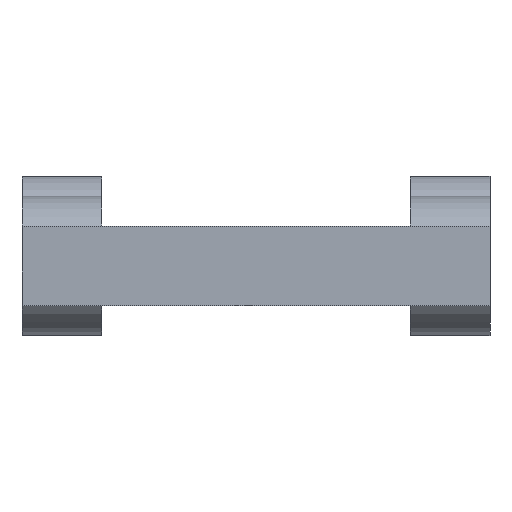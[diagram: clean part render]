
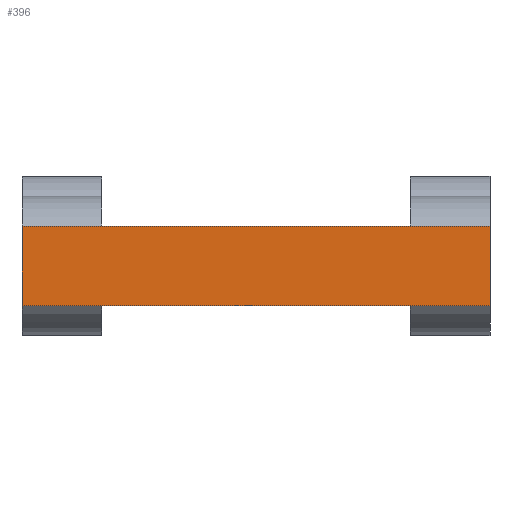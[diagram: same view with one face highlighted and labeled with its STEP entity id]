
A CAD part, front view. The second image highlights one B-rep face of the part: STEP entity #396.
In plain terms, the highlighted planar face has unit normal (0, -1, 0).
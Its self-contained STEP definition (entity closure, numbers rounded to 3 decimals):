
#21 = EDGE_CURVE('',#22,#24,#26,.T.);
#22 = VERTEX_POINT('',#23);
#23 = CARTESIAN_POINT('',(-21.14,-24.903,-23.8));
#24 = VERTEX_POINT('',#25);
#25 = CARTESIAN_POINT('',(-21.14,-24.903,-21.8));
#26 = SURFACE_CURVE('',#27,(#31,#43),.PCURVE_S1.);
#27 = LINE('',#28,#29);
#28 = CARTESIAN_POINT('',(-21.14,-24.903,-23.8));
#29 = VECTOR('',#30,1.);
#30 = DIRECTION('',(0.,0.,1.));
#31 = PCURVE('',#32,#37);
#32 = PLANE('',#33);
#33 = AXIS2_PLACEMENT_3D('',#34,#35,#36);
#34 = CARTESIAN_POINT('',(-21.14,-24.903,-23.8));
#35 = DIRECTION('',(1.,0.,-0.));
#36 = DIRECTION('',(0.,0.,1.));
#37 = DEFINITIONAL_REPRESENTATION('',(#38),#42);
#38 = LINE('',#39,#40);
#39 = CARTESIAN_POINT('',(0.,0.));
#40 = VECTOR('',#41,1.);
#41 = DIRECTION('',(1.,0.));
#42 = ( GEOMETRIC_REPRESENTATION_CONTEXT(2) 
PARAMETRIC_REPRESENTATION_CONTEXT() REPRESENTATION_CONTEXT('2D SPACE',''
  ) );
#43 = PCURVE('',#44,#49);
#44 = PLANE('',#45);
#45 = AXIS2_PLACEMENT_3D('',#46,#47,#48);
#46 = CARTESIAN_POINT('',(-21.14,-24.903,-23.8));
#47 = DIRECTION('',(-0.,1.,0.));
#48 = DIRECTION('',(0.,0.,1.));
#49 = DEFINITIONAL_REPRESENTATION('',(#50),#54);
#50 = LINE('',#51,#52);
#51 = CARTESIAN_POINT('',(0.,0.));
#52 = VECTOR('',#53,1.);
#53 = DIRECTION('',(1.,0.));
#54 = ( GEOMETRIC_REPRESENTATION_CONTEXT(2) 
PARAMETRIC_REPRESENTATION_CONTEXT() REPRESENTATION_CONTEXT('2D SPACE',''
  ) );
#72 = PLANE('',#73);
#73 = AXIS2_PLACEMENT_3D('',#74,#75,#76);
#74 = CARTESIAN_POINT('',(-21.14,-24.903,-23.8));
#75 = DIRECTION('',(0.,0.,1.));
#76 = DIRECTION('',(1.,0.,-0.));
#287 = VERTEX_POINT('',#288);
#288 = CARTESIAN_POINT('',(-21.14,-24.903,-19.8));
#302 = PLANE('',#303);
#303 = AXIS2_PLACEMENT_3D('',#304,#305,#306);
#304 = CARTESIAN_POINT('',(-21.14,-24.903,-19.8));
#305 = DIRECTION('',(0.,0.,1.));
#306 = DIRECTION('',(1.,0.,-0.));
#314 = EDGE_CURVE('',#24,#287,#315,.T.);
#315 = SURFACE_CURVE('',#316,(#320,#327),.PCURVE_S1.);
#316 = LINE('',#317,#318);
#317 = CARTESIAN_POINT('',(-21.14,-24.903,-23.8));
#318 = VECTOR('',#319,1.);
#319 = DIRECTION('',(0.,0.,1.));
#320 = PCURVE('',#32,#321);
#321 = DEFINITIONAL_REPRESENTATION('',(#322),#326);
#322 = LINE('',#323,#324);
#323 = CARTESIAN_POINT('',(0.,0.));
#324 = VECTOR('',#325,1.);
#325 = DIRECTION('',(1.,0.));
#326 = ( GEOMETRIC_REPRESENTATION_CONTEXT(2) 
PARAMETRIC_REPRESENTATION_CONTEXT() REPRESENTATION_CONTEXT('2D SPACE',''
  ) );
#327 = PCURVE('',#44,#328);
#328 = DEFINITIONAL_REPRESENTATION('',(#329),#333);
#329 = LINE('',#330,#331);
#330 = CARTESIAN_POINT('',(0.,0.));
#331 = VECTOR('',#332,1.);
#332 = DIRECTION('',(1.,0.));
#333 = ( GEOMETRIC_REPRESENTATION_CONTEXT(2) 
PARAMETRIC_REPRESENTATION_CONTEXT() REPRESENTATION_CONTEXT('2D SPACE',''
  ) );
#396 = ADVANCED_FACE('',(#397),#44,.F.);
#397 = FACE_BOUND('',#398,.F.);
#398 = EDGE_LOOP('',(#399,#422,#423,#424,#447,#475));
#399 = ORIENTED_EDGE('',*,*,#400,.F.);
#400 = EDGE_CURVE('',#22,#401,#403,.T.);
#401 = VERTEX_POINT('',#402);
#402 = CARTESIAN_POINT('',(2.36,-24.903,-23.8));
#403 = SURFACE_CURVE('',#404,(#408,#415),.PCURVE_S1.);
#404 = LINE('',#405,#406);
#405 = CARTESIAN_POINT('',(-21.14,-24.903,-23.8));
#406 = VECTOR('',#407,1.);
#407 = DIRECTION('',(1.,0.,-0.));
#408 = PCURVE('',#44,#409);
#409 = DEFINITIONAL_REPRESENTATION('',(#410),#414);
#410 = LINE('',#411,#412);
#411 = CARTESIAN_POINT('',(0.,0.));
#412 = VECTOR('',#413,1.);
#413 = DIRECTION('',(0.,1.));
#414 = ( GEOMETRIC_REPRESENTATION_CONTEXT(2) 
PARAMETRIC_REPRESENTATION_CONTEXT() REPRESENTATION_CONTEXT('2D SPACE',''
  ) );
#415 = PCURVE('',#72,#416);
#416 = DEFINITIONAL_REPRESENTATION('',(#417),#421);
#417 = LINE('',#418,#419);
#418 = CARTESIAN_POINT('',(0.,0.));
#419 = VECTOR('',#420,1.);
#420 = DIRECTION('',(1.,0.));
#421 = ( GEOMETRIC_REPRESENTATION_CONTEXT(2) 
PARAMETRIC_REPRESENTATION_CONTEXT() REPRESENTATION_CONTEXT('2D SPACE',''
  ) );
#422 = ORIENTED_EDGE('',*,*,#21,.T.);
#423 = ORIENTED_EDGE('',*,*,#314,.T.);
#424 = ORIENTED_EDGE('',*,*,#425,.T.);
#425 = EDGE_CURVE('',#287,#426,#428,.T.);
#426 = VERTEX_POINT('',#427);
#427 = CARTESIAN_POINT('',(2.36,-24.903,-19.8));
#428 = SURFACE_CURVE('',#429,(#433,#440),.PCURVE_S1.);
#429 = LINE('',#430,#431);
#430 = CARTESIAN_POINT('',(-21.14,-24.903,-19.8));
#431 = VECTOR('',#432,1.);
#432 = DIRECTION('',(1.,0.,-0.));
#433 = PCURVE('',#44,#434);
#434 = DEFINITIONAL_REPRESENTATION('',(#435),#439);
#435 = LINE('',#436,#437);
#436 = CARTESIAN_POINT('',(4.,0.));
#437 = VECTOR('',#438,1.);
#438 = DIRECTION('',(0.,1.));
#439 = ( GEOMETRIC_REPRESENTATION_CONTEXT(2) 
PARAMETRIC_REPRESENTATION_CONTEXT() REPRESENTATION_CONTEXT('2D SPACE',''
  ) );
#440 = PCURVE('',#302,#441);
#441 = DEFINITIONAL_REPRESENTATION('',(#442),#446);
#442 = LINE('',#443,#444);
#443 = CARTESIAN_POINT('',(0.,0.));
#444 = VECTOR('',#445,1.);
#445 = DIRECTION('',(1.,0.));
#446 = ( GEOMETRIC_REPRESENTATION_CONTEXT(2) 
PARAMETRIC_REPRESENTATION_CONTEXT() REPRESENTATION_CONTEXT('2D SPACE',''
  ) );
#447 = ORIENTED_EDGE('',*,*,#448,.F.);
#448 = EDGE_CURVE('',#449,#426,#451,.T.);
#449 = VERTEX_POINT('',#450);
#450 = CARTESIAN_POINT('',(2.36,-24.903,-21.8));
#451 = SURFACE_CURVE('',#452,(#456,#463),.PCURVE_S1.);
#452 = LINE('',#453,#454);
#453 = CARTESIAN_POINT('',(2.36,-24.903,-23.8));
#454 = VECTOR('',#455,1.);
#455 = DIRECTION('',(0.,0.,1.));
#456 = PCURVE('',#44,#457);
#457 = DEFINITIONAL_REPRESENTATION('',(#458),#462);
#458 = LINE('',#459,#460);
#459 = CARTESIAN_POINT('',(0.,23.5));
#460 = VECTOR('',#461,1.);
#461 = DIRECTION('',(1.,0.));
#462 = ( GEOMETRIC_REPRESENTATION_CONTEXT(2) 
PARAMETRIC_REPRESENTATION_CONTEXT() REPRESENTATION_CONTEXT('2D SPACE',''
  ) );
#463 = PCURVE('',#464,#469);
#464 = PLANE('',#465);
#465 = AXIS2_PLACEMENT_3D('',#466,#467,#468);
#466 = CARTESIAN_POINT('',(2.36,-24.903,-23.8));
#467 = DIRECTION('',(1.,0.,-0.));
#468 = DIRECTION('',(0.,0.,1.));
#469 = DEFINITIONAL_REPRESENTATION('',(#470),#474);
#470 = LINE('',#471,#472);
#471 = CARTESIAN_POINT('',(0.,0.));
#472 = VECTOR('',#473,1.);
#473 = DIRECTION('',(1.,0.));
#474 = ( GEOMETRIC_REPRESENTATION_CONTEXT(2) 
PARAMETRIC_REPRESENTATION_CONTEXT() REPRESENTATION_CONTEXT('2D SPACE',''
  ) );
#475 = ORIENTED_EDGE('',*,*,#476,.F.);
#476 = EDGE_CURVE('',#401,#449,#477,.T.);
#477 = SURFACE_CURVE('',#478,(#482,#489),.PCURVE_S1.);
#478 = LINE('',#479,#480);
#479 = CARTESIAN_POINT('',(2.36,-24.903,-23.8));
#480 = VECTOR('',#481,1.);
#481 = DIRECTION('',(0.,0.,1.));
#482 = PCURVE('',#44,#483);
#483 = DEFINITIONAL_REPRESENTATION('',(#484),#488);
#484 = LINE('',#485,#486);
#485 = CARTESIAN_POINT('',(0.,23.5));
#486 = VECTOR('',#487,1.);
#487 = DIRECTION('',(1.,0.));
#488 = ( GEOMETRIC_REPRESENTATION_CONTEXT(2) 
PARAMETRIC_REPRESENTATION_CONTEXT() REPRESENTATION_CONTEXT('2D SPACE',''
  ) );
#489 = PCURVE('',#464,#490);
#490 = DEFINITIONAL_REPRESENTATION('',(#491),#495);
#491 = LINE('',#492,#493);
#492 = CARTESIAN_POINT('',(0.,0.));
#493 = VECTOR('',#494,1.);
#494 = DIRECTION('',(1.,0.));
#495 = ( GEOMETRIC_REPRESENTATION_CONTEXT(2) 
PARAMETRIC_REPRESENTATION_CONTEXT() REPRESENTATION_CONTEXT('2D SPACE',''
  ) );
